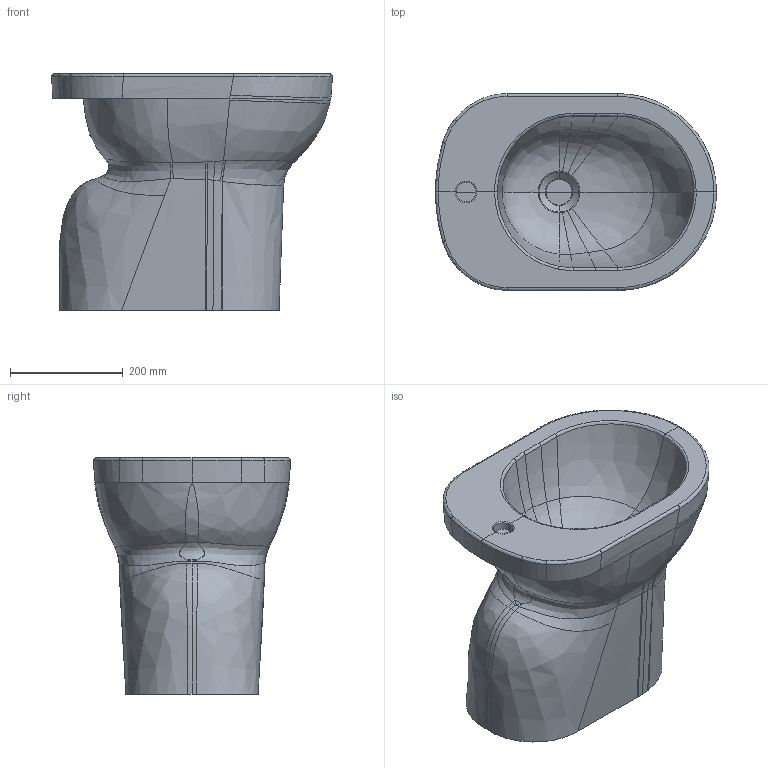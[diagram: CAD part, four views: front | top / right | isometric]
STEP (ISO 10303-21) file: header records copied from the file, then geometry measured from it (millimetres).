
FILE_DESCRIPTION(('CATIA V5 STEP Exchange'),'2;1');
FILE_NAME('C:\Users\167035\Downloads\3D ART 7206 Bidet terra Eden.stp','2024-05-23T14:02:18+00:00',('none'),('none'),'CATIA Version 5 Release 19 SP 5 (IN-10)','CATIA V5 STEP AP214','none');
FILE_SCHEMA(('AUTOMOTIVE_DESIGN { 1 0 10303 214 1 1 1 1 }'));
Length unit declared in the file: millimetre
Products named in the file (1): ART 7206 Bidet terra Eden
Bounding box: 499.68 x 349.92 x 420 mm (x, y, z)
Surface area: 836331.8 mm2 (no closed solid volume)
Topology: 0 solids, 1 shells, 139 faces, 319 edges, 181 vertices
Faces by surface type: bspline 121, plane 10, cylinder 6, torus 2
Entity records: 26165 total; most frequent: CARTESIAN_POINT 24001, ORIENTED_EDGE 636, EDGE_CURVE 318, B_SPLINE_CURVE_WITH_KNOTS 282, VERTEX_POINT 181, ADVANCED_FACE 139, EDGE_LOOP 139, FACE_OUTER_BOUND 139
